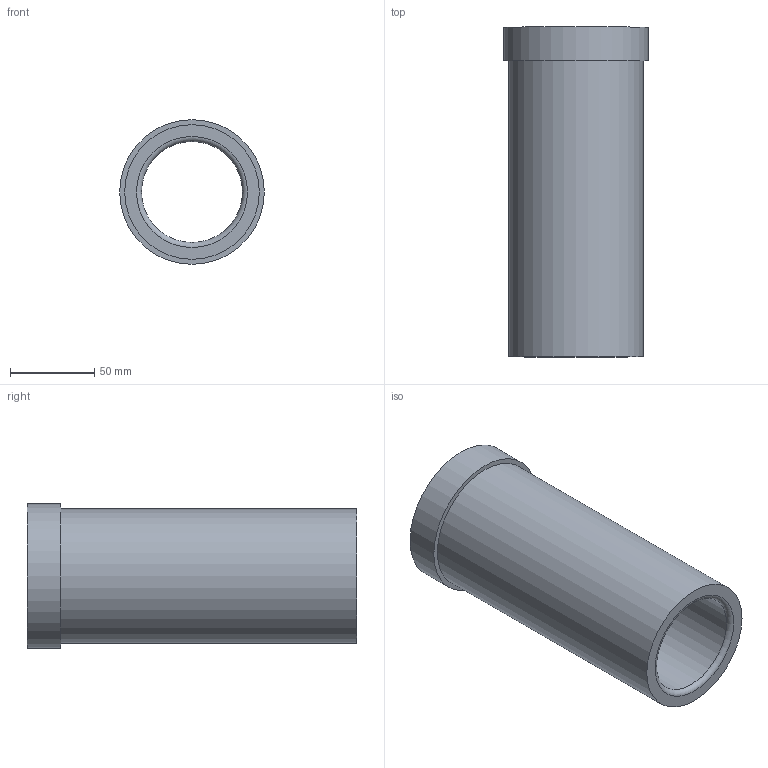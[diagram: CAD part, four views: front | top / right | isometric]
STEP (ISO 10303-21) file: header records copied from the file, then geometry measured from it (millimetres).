
FILE_DESCRIPTION(/* description */ ('STEP AP214'),/* implementation_level */ '2;1');
FILE_NAME(/* name */ '03_12_17873',/* time_stamp */ '2023-06-15T11:35:50+02:00',/* author */ ('License CC BY-ND 4.0'),/* organization */ ('CADENAS'),/* preprocessor_version */ 'ST-DEVELOPER v19.3',/* originating_system */ 'PARTsolutions',/* authorisation */ ' ');
FILE_SCHEMA (('AUTOMOTIVE_DESIGN {1 0 10303 214 3 1 1}'));
Length unit declared in the file: millimetre
Products named in the file (1): VA_Bushing_17873
Bounding box: 86 x 196 x 86 mm (x, y, z)
Volume: 443695.8 mm3; surface area: 92139.1 mm2
Topology: 1 solids, 1 shells, 10 faces, 16 edges, 10 vertices
Faces by surface type: cylinder 4, plane 4, torus 2
Full cylindrical faces by diameter (mm): 60 x1, 60.6 x1, 80 x1, 86 x1
Entity records: 302 total; most frequent: DIRECTION 42, CARTESIAN_POINT 31, AXIS2_PLACEMENT_3D 21, ORIENTED_EDGE 20, EDGE_LOOP 20, FACE_BOUND 20, EDGE_CURVE 10, VERTEX_POINT 10
